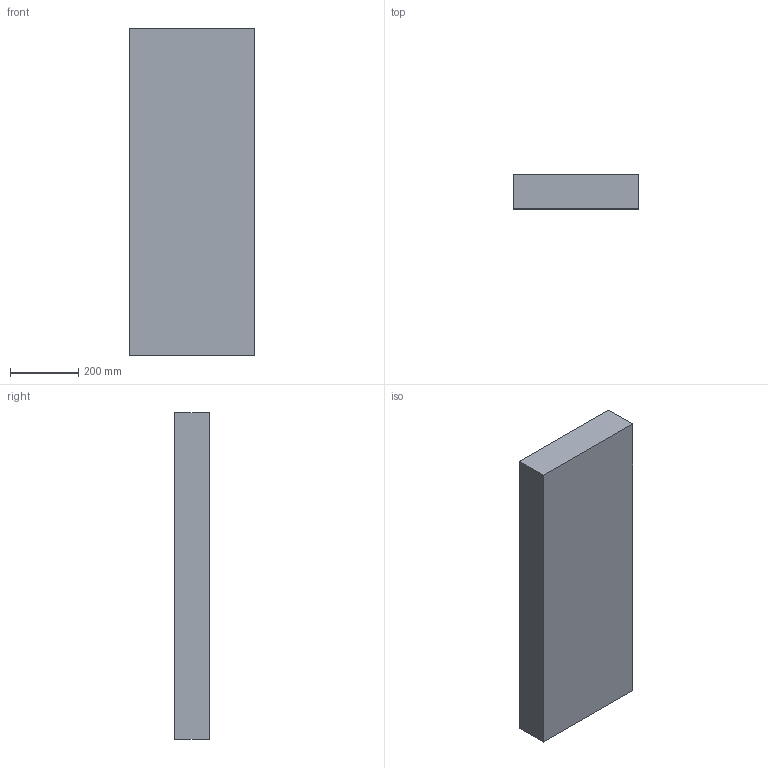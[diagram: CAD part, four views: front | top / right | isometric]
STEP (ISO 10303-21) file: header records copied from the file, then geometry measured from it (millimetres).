
FILE_DESCRIPTION(/* description */ (''),/* implementation_level */ '2;1');
FILE_NAME(/* name */ 'C:/Users/LukasGröber/GMS Cloud/Groeber Mannheim Lichtwerke - Dokumente/Marketing/Produkte/3D Daten/Wandleuchte Eifel im Herbst/Wandleuchte Eifel im Herbst 96x37.step',/* time_stamp */ '2022-07-11T09:46:40+02:00',/* author */ (''),/* organization */ (''),/* preprocessor_version */ 'ST-DEVELOPER v19',/* originating_system */ 'Autodesk Translation Framework v11.7.0.108',/* authorisation */ '');
FILE_SCHEMA (('AUTOMOTIVE_DESIGN { 1 0 10303 214 3 1 1 }'));
Length unit declared in the file: millimetre
Products named in the file (1): Wandleuchte Eifel im Herbst 96x37
Bounding box: 370 x 100 x 960 mm (x, y, z)
Volume: 35520000 mm3; surface area: 976400 mm2
Topology: 1 solids, 1 shells, 6 faces, 12 edges, 8 vertices
Faces by surface type: plane 6
Entity records: 204 total; most frequent: CARTESIAN_POINT 27, DIRECTION 26, ORIENTED_EDGE 24, LINE 12, VECTOR 12, EDGE_CURVE 12, VERTEX_POINT 8, AXIS2_PLACEMENT_3D 7
